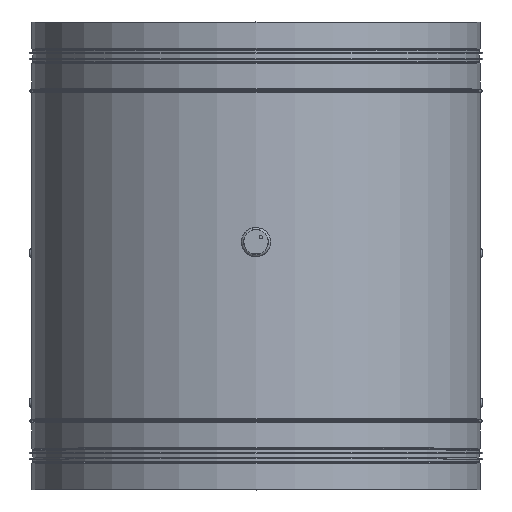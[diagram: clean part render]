
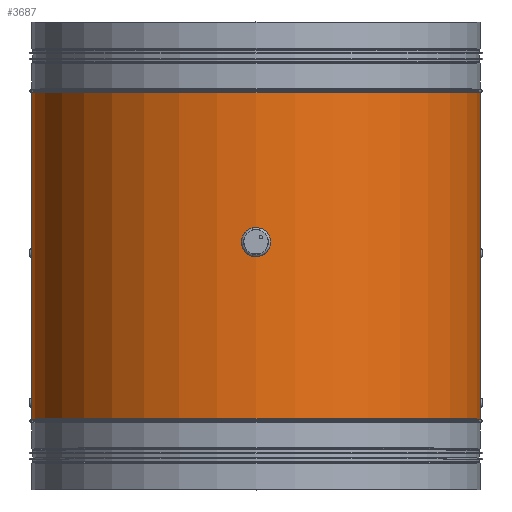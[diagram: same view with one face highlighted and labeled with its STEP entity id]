
A CAD part, top view. The second image highlights one B-rep face of the part: STEP entity #3687.
In plain terms, the highlighted cylindrical face has radius 199 mm (diameter 398 mm), a full revolution.
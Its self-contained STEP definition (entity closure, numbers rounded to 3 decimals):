
#108=CYLINDRICAL_SURFACE('',#4164,199.);
#307=FACE_OUTER_BOUND('',#553,.T.);
#553=EDGE_LOOP('',(#2797,#2798,#2799,#2800));
#817=CIRCLE('',#4163,199.);
#818=CIRCLE('',#4165,199.);
#1001=LINE('',#5873,#1261);
#1066=LINE('',#6068,#1326);
#1261=VECTOR('',#4560,10.);
#1326=VECTOR('',#4753,10.);
#1521=VERTEX_POINT('',#5866);
#1523=VERTEX_POINT('',#5872);
#1587=VERTEX_POINT('',#6061);
#1589=VERTEX_POINT('',#6067);
#1849=EDGE_CURVE('',#1523,#1521,#1001,.T.);
#1946=EDGE_CURVE('',#1587,#1589,#1066,.T.);
#2049=EDGE_CURVE('',#1587,#1523,#817,.T.);
#2050=EDGE_CURVE('',#1589,#1521,#818,.T.);
#2797=ORIENTED_EDGE('',*,*,#1849,.T.);
#2798=ORIENTED_EDGE('',*,*,#2050,.F.);
#2799=ORIENTED_EDGE('',*,*,#1946,.F.);
#2800=ORIENTED_EDGE('',*,*,#2049,.T.);
#3687=ADVANCED_FACE('',(#307),#108,.T.);
#4163=AXIS2_PLACEMENT_3D('',#6271,#5051,#5052);
#4164=AXIS2_PLACEMENT_3D('',#6272,#5053,#5054);
#4165=AXIS2_PLACEMENT_3D('',#6273,#5055,#5056);
#4560=DIRECTION('',(0.,0.,-1.));
#4753=DIRECTION('',(0.,0.,-1.));
#5051=DIRECTION('center_axis',(0.,0.,-1.));
#5052=DIRECTION('ref_axis',(1.,0.,0.));
#5053=DIRECTION('center_axis',(0.,0.,-1.));
#5054=DIRECTION('ref_axis',(-1.,0.,0.));
#5055=DIRECTION('center_axis',(0.,0.,-1.));
#5056=DIRECTION('ref_axis',(1.,0.,0.));
#5866=CARTESIAN_POINT('',(199.,0.035,-144.75));
#5872=CARTESIAN_POINT('',(199.,0.035,144.75));
#5873=CARTESIAN_POINT('',(199.,0.035,0.));
#6061=CARTESIAN_POINT('',(199.,0.,144.75));
#6067=CARTESIAN_POINT('',(199.,0.,-144.75));
#6068=CARTESIAN_POINT('',(199.,0.,144.75));
#6271=CARTESIAN_POINT('Origin',(0.,0.,144.75));
#6272=CARTESIAN_POINT('Origin',(0.,0.,0.));
#6273=CARTESIAN_POINT('Origin',(0.,0.,-144.75));
